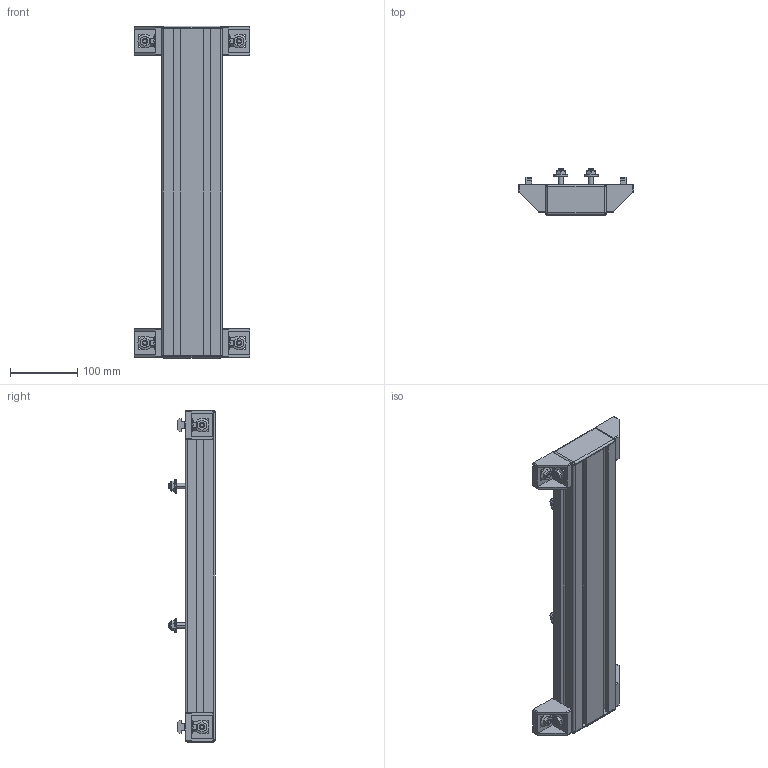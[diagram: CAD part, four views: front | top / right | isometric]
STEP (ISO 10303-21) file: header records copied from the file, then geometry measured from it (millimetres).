
FILE_DESCRIPTION (( 'STEP AP203' ), '1' );
FILE_NAME ('Asutec_75000132.STEP', '2026-02-02T05:59:30', ( '' ), ( '' ), 'SwSTEP 2.0', 'SolidWorks 2020', '' );
FILE_SCHEMA (( 'CONFIG_CONTROL_DESIGN' ));
Length unit declared in the file: millimetre
Products named in the file (1): Asutec_75000132
Bounding box: 172 x 69.3 x 495 mm (x, y, z)
Volume: 1518496.8 mm3; surface area: 365137.4 mm2
Topology: 7 solids, 7 shells, 742 faces, 1976 edges, 1240 vertices
Faces by surface type: plane 486, cylinder 160, cone 80, bspline 8, sphere 8
Entity records: 24305 total; most frequent: CARTESIAN_POINT 5751, ORIENTED_EDGE 3936, DIRECTION 3742, EDGE_CURVE 1968, VECTOR 1376, LINE 1376, VERTEX_POINT 1240, AXIS2_PLACEMENT_3D 1183
